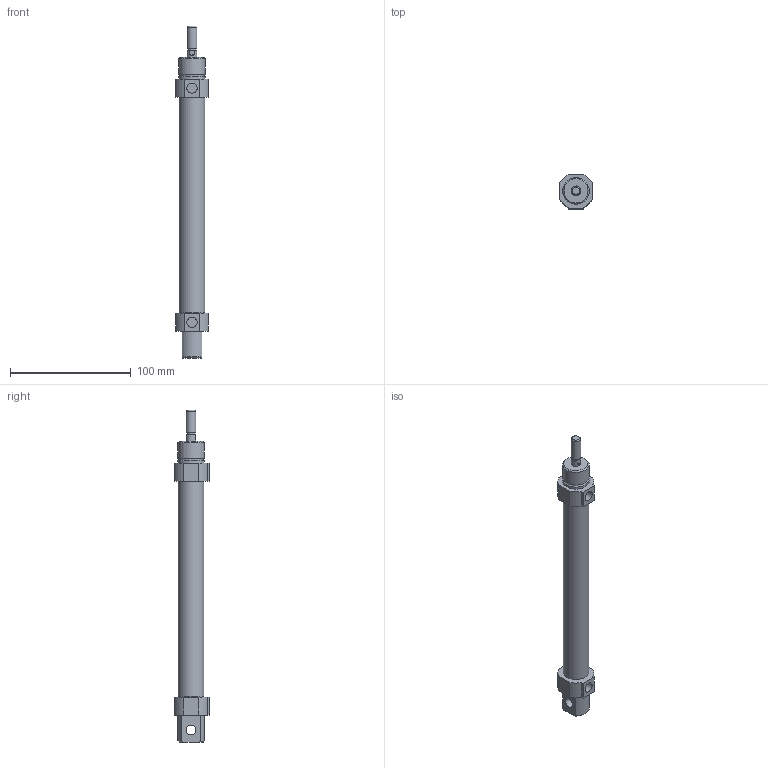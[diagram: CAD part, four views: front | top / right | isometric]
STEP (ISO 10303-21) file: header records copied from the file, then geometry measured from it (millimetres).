
FILE_DESCRIPTION((''),'2;1');
FILE_NAME('I:\3D電子目錄\氣缸\SDA\SDA20\SDA20\SDA20x150.stp','2007-08-06T10:31:44',('Administrator'),(''),'Autodesk Inventor 2008','Autodesk Inventor 2008','');
FILE_SCHEMA(('AUTOMOTIVE_DESIGN { 1 0 10303 214 1 1 1 1 }'));
Length unit declared in the file: millimetre
Products named in the file (1): SDA20X150
Bounding box: 27 x 28.5 x 275 mm (x, y, z)
Volume: 96411 mm3; surface area: 21042.4 mm2
Topology: 1 solids, 1 shells, 60 faces, 142 edges, 92 vertices
Faces by surface type: plane 30, cylinder 19, cone 8, bspline 2, torus 1
Full cylindrical faces by diameter (mm): 6.6 x1, 8 x3, 8.5 x2, 21.2 x1, 22 x2
Entity records: 1678 total; most frequent: CARTESIAN_POINT 301, DIRECTION 290, ORIENTED_EDGE 254, EDGE_CURVE 127, AXIS2_PLACEMENT_3D 112, VERTEX_POINT 91, EDGE_LOOP 84, VECTOR 66
